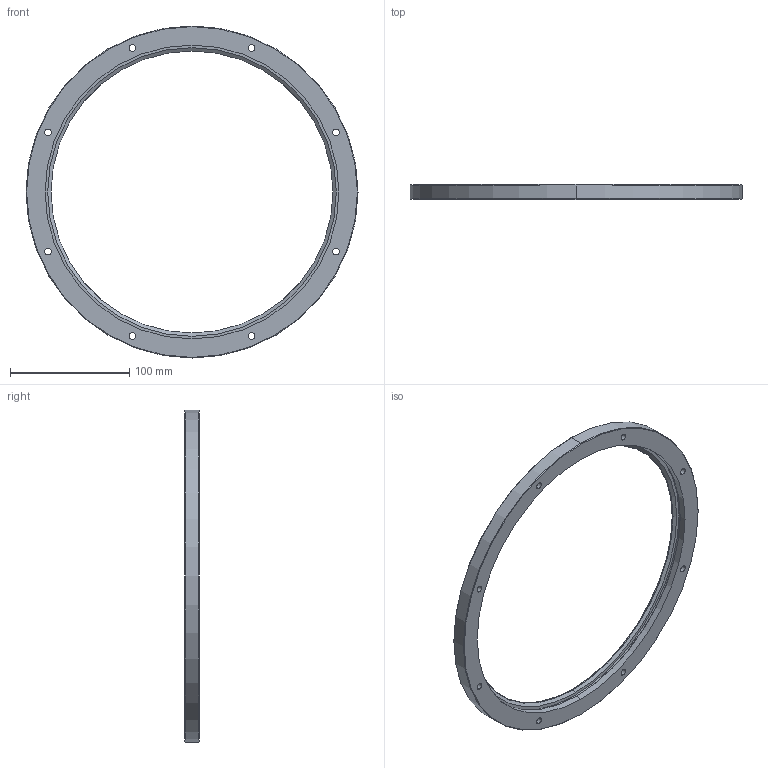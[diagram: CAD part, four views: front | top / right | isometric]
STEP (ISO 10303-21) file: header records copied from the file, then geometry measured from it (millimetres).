
FILE_DESCRIPTION(('STEP AP203'),'1');
FILE_NAME('ris_278_r360.stp','2021-06-01T09:28:43',('TraceParts'),('TraceParts S.A.'),'Spatial InterOp 3D',' ',' ');
FILE_SCHEMA(('CONFIG_CONTROL_DESIGN'));
Length unit declared in the file: millimetre
Products named in the file (1): 1
Bounding box: 278 x 12.25 x 278 mm (x, y, z)
Volume: 168378.7 mm3; surface area: 54129.8 mm2
Topology: 1 solids, 1 shells, 62 faces, 140 edges, 90 vertices
Faces by surface type: cylinder 38, plane 12, cone 8, torus 4
Entity records: 1858 total; most frequent: DIRECTION 360, CARTESIAN_POINT 293, ORIENTED_EDGE 280, AXIS2_PLACEMENT_3D 157, EDGE_CURVE 140, CIRCLE 94, EDGE_LOOP 90, VERTEX_POINT 90
